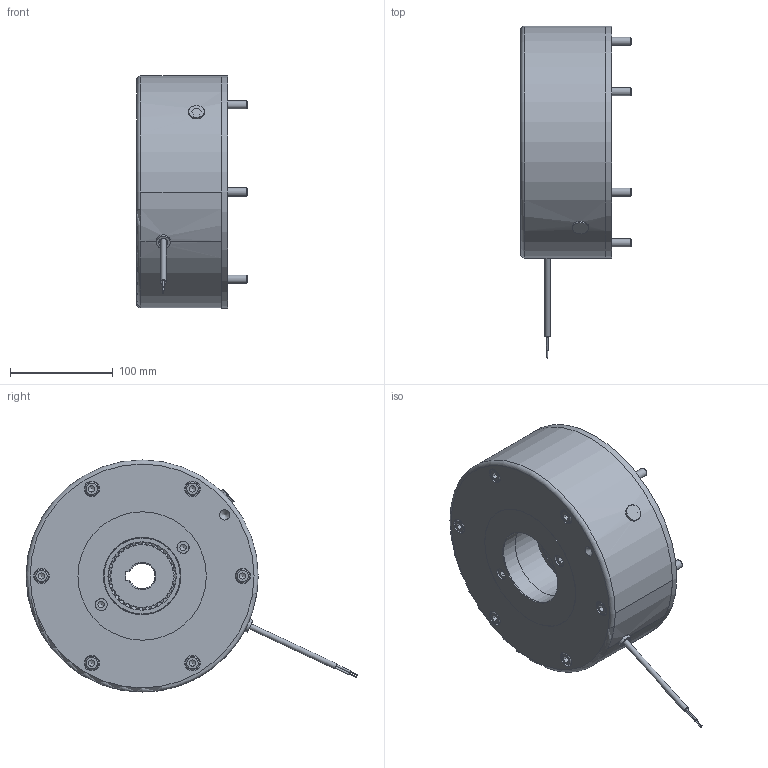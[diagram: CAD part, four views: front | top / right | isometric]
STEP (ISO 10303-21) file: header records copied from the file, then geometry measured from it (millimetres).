
FILE_DESCRIPTION(/* description */ (''),/* implementation_level */ '2;1');
FILE_NAME(/* name */ 'C:\SapWorkDir\Inventor\IP1\ConvertTempPath\5028817_IPT_000.ipt.stp',/* time_stamp */ '2020-09-18T14:45:59+02:00',/* author */ ('STRATE'),/* organization */ (''),/* preprocessor_version */ 'ST-DEVELOPER v17',/* originating_system */ 'Autodesk Inventor 2018',/* authorisation */ '');
FILE_SCHEMA (('AUTOMOTIVE_DESIGN { 1 0 10303 214 3 1 1 }'));
Length unit declared in the file: millimetre
Products named in the file (1): 5028817
Bounding box: 108.4 x 323.12 x 226 mm (x, y, z)
Volume: 2919237.2 mm3; surface area: 418978.6 mm2
Topology: 5 solids, 5 shells, 618 faces, 1698 edges, 1159 vertices
Faces by surface type: cylinder 344, plane 143, cone 94, torus 34, bspline 3
Full cylindrical faces by diameter (mm): 0.01 x1, 1 x2, 1.85 x2, 5.3 x1, 6 x1, 7 x1, 7.6 x1, 8 x6, 8.2 x6, 8.3 x3, 8.6 x6, 9 x6, 10 x7, 11 x2, 11.8 x2, 11.835 x2, 12.5 x6, 13 x6, 13.2 x1, 13.9 x6, 15 x6, 16 x1, 75 x1, 77.5 x2, 95 x1, 125 x1, 128.9 x2, 174 x1, 210.5 x1, 214 x1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
Entity records: 21832 total; most frequent: CARTESIAN_POINT 5024, DIRECTION 3449, ORIENTED_EDGE 3382, EDGE_CURVE 1691, AXIS2_PLACEMENT_3D 1472, VERTEX_POINT 1159, CIRCLE 856, EDGE_LOOP 748
